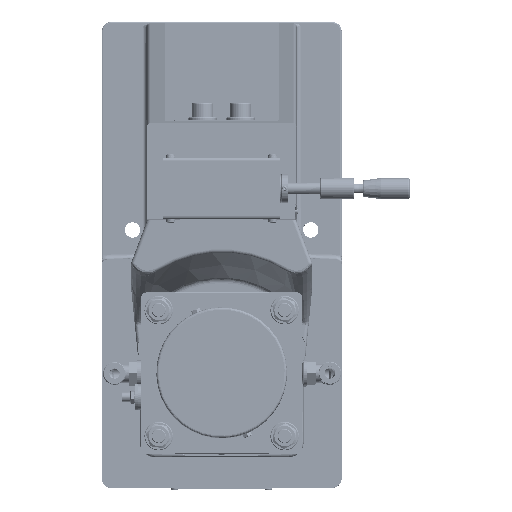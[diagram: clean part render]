
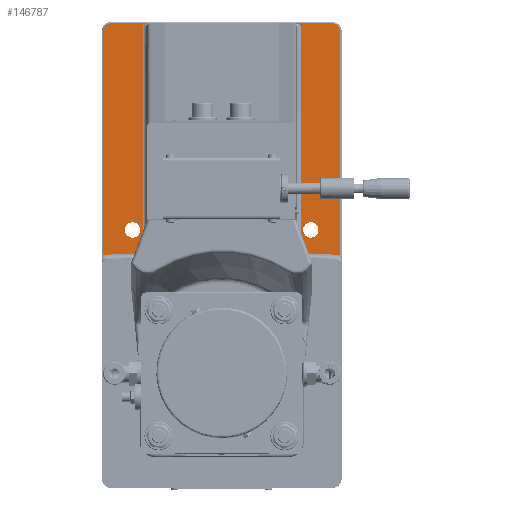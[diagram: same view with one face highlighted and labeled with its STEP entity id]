
A CAD part, top view. The second image highlights one B-rep face of the part: STEP entity #146787.
In plain terms, the highlighted planar face has unit normal (0, 0, 1).
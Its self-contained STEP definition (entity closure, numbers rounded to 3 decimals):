
#9075=LINE('',#214440,#23072);
#9206=LINE('',#215498,#23203);
#9207=LINE('',#215580,#23204);
#9209=LINE('',#215582,#23206);
#9211=LINE('',#215594,#23208);
#9228=LINE('',#215723,#23225);
#9229=LINE('',#215724,#23226);
#9230=LINE('',#215728,#23227);
#9231=LINE('',#215731,#23228);
#23072=VECTOR('',#171364,183.48);
#23203=VECTOR('',#171997,188.744);
#23204=VECTOR('',#172010,31.61);
#23206=VECTOR('',#172012,31.61);
#23208=VECTOR('',#172026,188.744);
#23225=VECTOR('',#172061,133.);
#23226=VECTOR('',#172062,183.48);
#23227=VECTOR('',#172065,96.075);
#23228=VECTOR('',#172068,96.075);
#31845=B_SPLINE_CURVE_WITH_KNOTS('',3,(#214312,#214313,#214314,#214315,
#214316,#214317,#214318,#214319),.UNSPECIFIED.,.F.,.F.,(4,2,2,4),(-0.001,
0.,0.358,0.52),.UNSPECIFIED.);
#31847=B_SPLINE_CURVE_WITH_KNOTS('',3,(#214374,#214375,#214376,#214377,
#214378,#214379,#214380,#214381,#214382,#214383),.UNSPECIFIED.,.F.,.F.,
(4,2,2,2,4),(0.,0.162,0.37,0.581,0.582),
 .UNSPECIFIED.);
#36163=FACE_BOUND('',#48573,.T.);
#36164=FACE_BOUND('',#48574,.T.);
#40410=FACE_OUTER_BOUND('',#48572,.T.);
#48572=EDGE_LOOP('',(#107308,#107309,#107310,#107311,#107312,#107313,#107314,
#107315,#107316,#107317,#107318,#107319,#107320,#107321,#107322,#107323));
#48573=EDGE_LOOP('',(#107324));
#48574=EDGE_LOOP('',(#107325));
#55118=CIRCLE('',#154681,7.);
#55122=CIRCLE('',#154687,7.);
#55125=CIRCLE('',#154693,9.);
#55130=CIRCLE('',#154700,9.);
#55131=CIRCLE('',#154701,9.);
#55132=CIRCLE('',#154702,6.5);
#55133=CIRCLE('',#154703,6.5);
#61791=VERTEX_POINT('',#214310);
#61792=VERTEX_POINT('',#214311);
#61796=VERTEX_POINT('',#214329);
#61798=VERTEX_POINT('',#214373);
#61799=VERTEX_POINT('',#214427);
#61926=VERTEX_POINT('',#215491);
#61929=VERTEX_POINT('',#215496);
#61932=VERTEX_POINT('',#215572);
#61934=VERTEX_POINT('',#215578);
#61936=VERTEX_POINT('',#215586);
#61938=VERTEX_POINT('',#215592);
#61952=VERTEX_POINT('',#215708);
#61957=VERTEX_POINT('',#215722);
#61958=VERTEX_POINT('',#215725);
#61959=VERTEX_POINT('',#215727);
#61960=VERTEX_POINT('',#215729);
#61961=VERTEX_POINT('',#215732);
#61962=VERTEX_POINT('',#215734);
#78213=EDGE_CURVE('',#61791,#61792,#31845,.T.);
#78226=EDGE_CURVE('',#61798,#61796,#31847,.F.);
#78230=EDGE_CURVE('',#61799,#61798,#9075,.T.);
#78490=EDGE_CURVE('',#61929,#61926,#9206,.T.);
#78494=EDGE_CURVE('',#61932,#61929,#55118,.T.);
#78497=EDGE_CURVE('',#61934,#61792,#9207,.T.);
#78499=EDGE_CURVE('',#61796,#61932,#9209,.T.);
#78502=EDGE_CURVE('',#61936,#61934,#55122,.T.);
#78505=EDGE_CURVE('',#61938,#61936,#9211,.T.);
#78522=EDGE_CURVE('',#61926,#61952,#55125,.T.);
#78529=EDGE_CURVE('',#61957,#61799,#9228,.T.);
#78530=EDGE_CURVE('',#61791,#61957,#9229,.T.);
#78531=EDGE_CURVE('',#61958,#61938,#55130,.T.);
#78532=EDGE_CURVE('',#61959,#61958,#9230,.T.);
#78533=EDGE_CURVE('',#61960,#61959,#55131,.T.);
#78534=EDGE_CURVE('',#61952,#61960,#9231,.T.);
#78535=EDGE_CURVE('',#61961,#61961,#55132,.T.);
#78536=EDGE_CURVE('',#61962,#61962,#55133,.T.);
#107308=ORIENTED_EDGE('',*,*,#78490,.F.);
#107309=ORIENTED_EDGE('',*,*,#78494,.F.);
#107310=ORIENTED_EDGE('',*,*,#78499,.F.);
#107311=ORIENTED_EDGE('',*,*,#78226,.F.);
#107312=ORIENTED_EDGE('',*,*,#78230,.F.);
#107313=ORIENTED_EDGE('',*,*,#78529,.F.);
#107314=ORIENTED_EDGE('',*,*,#78530,.F.);
#107315=ORIENTED_EDGE('',*,*,#78213,.T.);
#107316=ORIENTED_EDGE('',*,*,#78497,.F.);
#107317=ORIENTED_EDGE('',*,*,#78502,.F.);
#107318=ORIENTED_EDGE('',*,*,#78505,.F.);
#107319=ORIENTED_EDGE('',*,*,#78531,.F.);
#107320=ORIENTED_EDGE('',*,*,#78532,.F.);
#107321=ORIENTED_EDGE('',*,*,#78533,.F.);
#107322=ORIENTED_EDGE('',*,*,#78534,.F.);
#107323=ORIENTED_EDGE('',*,*,#78522,.F.);
#107324=ORIENTED_EDGE('',*,*,#78535,.T.);
#107325=ORIENTED_EDGE('',*,*,#78536,.T.);
#133112=PLANE('',#154699);
#146787=ADVANCED_FACE('',(#40410,#36163,#36164),#133112,.T.);
#154681=AXIS2_PLACEMENT_3D('',#215574,#172002,#172003);
#154687=AXIS2_PLACEMENT_3D('',#215588,#172018,#172019);
#154693=AXIS2_PLACEMENT_3D('',#215709,#172045,#172046);
#154699=AXIS2_PLACEMENT_3D('',#215721,#172059,#172060);
#154700=AXIS2_PLACEMENT_3D('',#215726,#172063,#172064);
#154701=AXIS2_PLACEMENT_3D('',#215730,#172066,#172067);
#154702=AXIS2_PLACEMENT_3D('',#215733,#172069,#172070);
#154703=AXIS2_PLACEMENT_3D('',#215735,#172071,#172072);
#171364=DIRECTION('',(0.,1.,0.));
#171997=DIRECTION('',(0.,-1.,0.));
#172002=DIRECTION('center_axis',(0.,0.,
-1.));
#172003=DIRECTION('ref_axis',(0.707,0.707,0.));
#172010=DIRECTION('',(1.,0.,0.));
#172012=DIRECTION('',(1.,0.,0.));
#172018=DIRECTION('center_axis',(0.,0.,
-1.));
#172019=DIRECTION('ref_axis',(-0.707,0.707,0.));
#172026=DIRECTION('',(0.,1.,0.));
#172045=DIRECTION('center_axis',(0.,0.,
1.));
#172046=DIRECTION('ref_axis',(0.721,0.693,0.));
#172059=DIRECTION('center_axis',(0.,0.,
1.));
#172060=DIRECTION('ref_axis',(1.,0.,0.));
#172061=DIRECTION('',(1.,0.,0.));
#172062=DIRECTION('',(0.,-1.,0.));
#172063=DIRECTION('center_axis',(0.,0.,
1.));
#172064=DIRECTION('ref_axis',(-0.721,0.693,0.));
#172065=DIRECTION('',(-0.999,-0.04,0.));
#172066=DIRECTION('center_axis',(0.,0.,
1.));
#172067=DIRECTION('ref_axis',(0.,1.,0.));
#172068=DIRECTION('',(-0.999,0.04,0.));
#172069=DIRECTION('center_axis',(0.,0.,
-1.));
#172070=DIRECTION('ref_axis',(1.,0.,0.));
#172071=DIRECTION('center_axis',(0.,0.,
-1.));
#172072=DIRECTION('ref_axis',(1.,0.,0.));
#214310=CARTESIAN_POINT('',(-66.5,195.98,47.));
#214311=CARTESIAN_POINT('',(-61.39,198.5,47.));
#214312=CARTESIAN_POINT('Ctrl Pts',(-66.5,195.98,47.));
#214313=CARTESIAN_POINT('Ctrl Pts',(-66.497,195.982,
47.));
#214314=CARTESIAN_POINT('Ctrl Pts',(-66.495,195.985,
47.));
#214315=CARTESIAN_POINT('Ctrl Pts',(-65.615,196.799,
47.));
#214316=CARTESIAN_POINT('Ctrl Pts',(-64.539,197.685,
47.));
#214317=CARTESIAN_POINT('Ctrl Pts',(-62.635,198.376,
47.));
#214318=CARTESIAN_POINT('Ctrl Pts',(-62.017,198.5,47.));
#214319=CARTESIAN_POINT('Ctrl Pts',(-61.39,198.5,47.));
#214329=CARTESIAN_POINT('',(61.39,198.5,47.));
#214373=CARTESIAN_POINT('',(66.5,195.98,47.));
#214374=CARTESIAN_POINT('Ctrl Pts',(61.39,198.5,47.));
#214375=CARTESIAN_POINT('Ctrl Pts',(61.931,198.5,47.));
#214376=CARTESIAN_POINT('Ctrl Pts',(62.467,198.408,47.));
#214377=CARTESIAN_POINT('Ctrl Pts',(63.645,198.035,47.));
#214378=CARTESIAN_POINT('Ctrl Pts',(64.262,197.715,47.));
#214379=CARTESIAN_POINT('Ctrl Pts',(65.431,196.93,47.));
#214380=CARTESIAN_POINT('Ctrl Pts',(65.965,196.475,47.));
#214381=CARTESIAN_POINT('Ctrl Pts',(66.495,195.985,47.));
#214382=CARTESIAN_POINT('Ctrl Pts',(66.497,195.982,47.));
#214383=CARTESIAN_POINT('Ctrl Pts',(66.5,195.98,47.));
#214427=CARTESIAN_POINT('',(66.5,12.5,47.));
#214440=CARTESIAN_POINT('',(66.5,23.,47.));
#215491=CARTESIAN_POINT('',(100.,2.756,47.));
#215496=CARTESIAN_POINT('',(100.,191.5,47.));
#215498=CARTESIAN_POINT('',(100.,101.5,47.));
#215572=CARTESIAN_POINT('',(93.,198.5,47.));
#215574=CARTESIAN_POINT('Origin',(93.,191.5,47.));
#215578=CARTESIAN_POINT('',(-93.,198.5,47.));
#215580=CARTESIAN_POINT('',(31.5,198.5,47.));
#215582=CARTESIAN_POINT('',(31.5,198.5,47.));
#215586=CARTESIAN_POINT('',(-100.,191.5,47.));
#215588=CARTESIAN_POINT('Origin',(-93.,191.5,47.));
#215592=CARTESIAN_POINT('',(-100.,2.756,47.));
#215594=CARTESIAN_POINT('',(-100.,-94.5,47.));
#215708=CARTESIAN_POINT('',(96.356,3.687,47.));
#215709=CARTESIAN_POINT('Origin',(96.,-5.306,47.));
#215721=CARTESIAN_POINT('Origin',(0.,3.5,
47.));
#215722=CARTESIAN_POINT('',(-66.5,12.5,47.));
#215723=CARTESIAN_POINT('',(-31.5,12.5,47.));
#215724=CARTESIAN_POINT('',(-66.5,101.,47.));
#215725=CARTESIAN_POINT('',(-96.356,3.687,47.));
#215726=CARTESIAN_POINT('Origin',(-96.,-5.306,47.));
#215727=CARTESIAN_POINT('',(-0.356,7.489,47.));
#215728=CARTESIAN_POINT('',(-50.658,5.497,47.));
#215729=CARTESIAN_POINT('',(0.356,7.489,47.));
#215730=CARTESIAN_POINT('Origin',(0.,-1.504,
47.));
#215731=CARTESIAN_POINT('',(0.158,7.497,47.));
#215732=CARTESIAN_POINT('',(-68.5,24.5,47.));
#215733=CARTESIAN_POINT('Origin',(-75.,24.5,47.));
#215734=CARTESIAN_POINT('',(81.5,24.5,47.));
#215735=CARTESIAN_POINT('Origin',(75.,24.5,47.));
